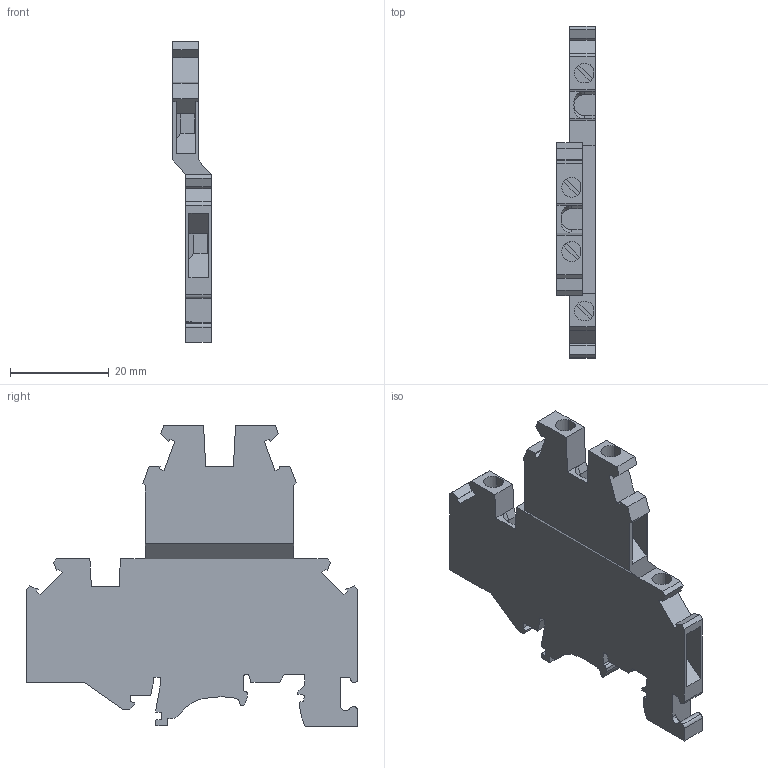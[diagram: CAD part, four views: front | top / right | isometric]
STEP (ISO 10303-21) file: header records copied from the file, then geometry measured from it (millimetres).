
FILE_DESCRIPTION( ('This file contains a STEP AP42 implementation' ,'as created by ZW3D STEP Interface translator.') ,'2;1' );
FILE_NAME( 'RUKKB3.stp' ,'23 6 8. 93912', (''), ('ZWCAD Software Co.'), 'Version 1.0', 'ZW3D to STEP translator', '' );
FILE_SCHEMA(('AUTOMOTIVE_DESIGN { 1 0 10303 214 1 1 1 1 }'));
Length unit declared in the file: millimetre
Products named in the file (2): 0; 2771010
Bounding box: 7.75 x 67.15 x 60.9 mm (x, y, z)
Volume: 11244.6 mm3; surface area: 7839.9 mm2
Topology: 1 solids, 1 shells, 207 faces, 577 edges, 378 vertices
Faces by surface type: plane 179, cylinder 24, cone 4
Entity records: 7064 total; most frequent: CARTESIAN_POINT 1451, ORIENTED_EDGE 1154, DIRECTION 1058, EDGE_CURVE 577, VECTOR 504, LINE 504, VERTEX_POINT 378, AXIS2_PLACEMENT_3D 277
